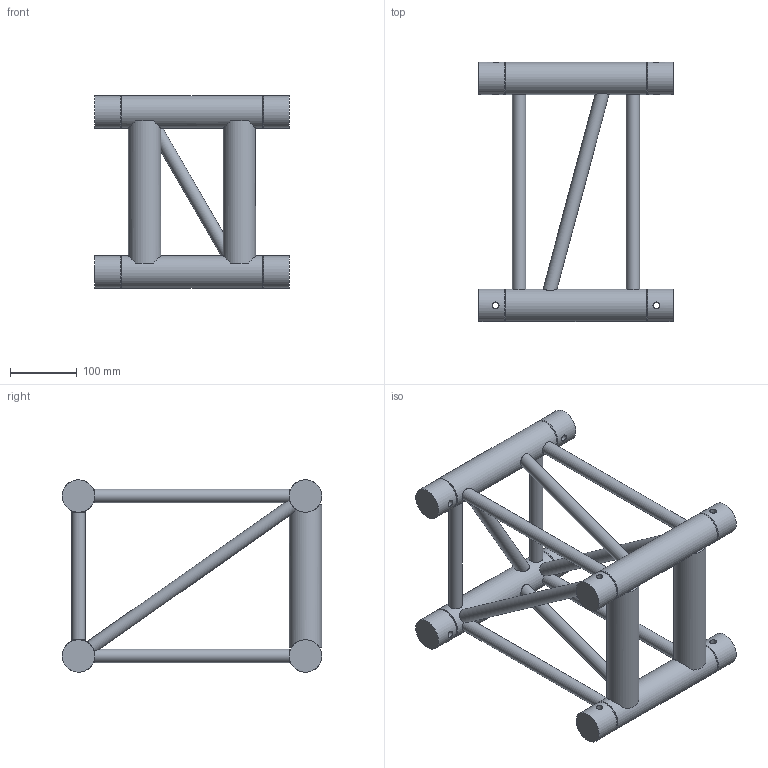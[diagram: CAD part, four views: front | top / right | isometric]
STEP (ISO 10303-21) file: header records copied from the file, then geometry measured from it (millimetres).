
FILE_DESCRIPTION(/* description */ (''),/* implementation_level */ '2;1');
FILE_NAME(/* name */ 'C:\Users\adrian.toca\Desktop\111050867.stp',/* time_stamp */ '2016-09-16T16:53:41+03:00',/* author */ ('adrian.toca'),/* organization */ (''),/* preprocessor_version */ 'ST-DEVELOPER v15.6',/* originating_system */ 'Autodesk Inventor 2015',/* authorisation */ '');
FILE_SCHEMA (('AUTOMOTIVE_DESIGN { 1 0 10303 214 3 1 1 }'));
Length unit declared in the file: millimetre
Products named in the file (1): 260030916
Bounding box: 290 x 387.3 x 287.3 mm (x, y, z)
Volume: 3789887.8 mm3; surface area: 458693.2 mm2
Topology: 7 solids, 7 shells, 108 faces, 258 edges, 163 vertices
Faces by surface type: plane 62, cylinder 38, cone 8
Full cylindrical faces by diameter (mm): 10 x8, 20 x11, 48.3 x14
Entity records: 3586 total; most frequent: CARTESIAN_POINT 1218, DIRECTION 466, ORIENTED_EDGE 404, AXIS2_PLACEMENT_3D 218, EDGE_LOOP 192, EDGE_CURVE 188, VERTEX_POINT 146, STYLED_ITEM 104
